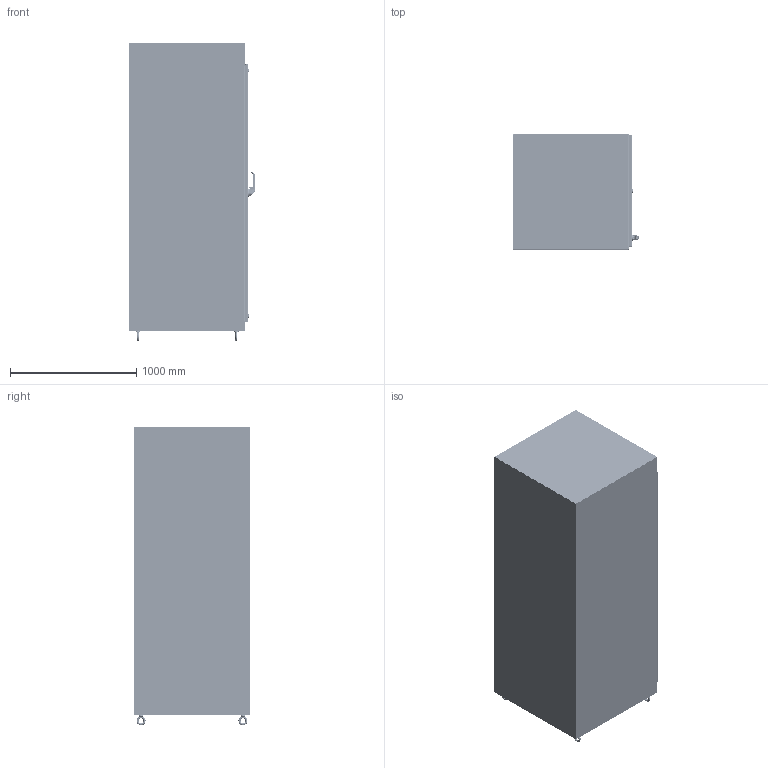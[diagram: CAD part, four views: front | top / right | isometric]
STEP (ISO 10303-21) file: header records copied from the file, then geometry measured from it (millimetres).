
FILE_DESCRIPTION((''),'2;1');
FILE_NAME('MODEL-237_ASM','2021-06-10T13:07:05',('mikek'),('SAGINAW CONTROL & ENGINEERING'),'CREO PARAMETRIC BY PTC INC, 2017260','CREO PARAMETRIC BY PTC INC, 2017260','');
FILE_SCHEMA(('AUTOMOTIVE_DESIGN { 1 0 10303 214 1 1 1 1 }'));
Length unit declared in the file: inch
Products named in the file (59): MODEL-237-BDY; MODEL-237-TP; MODEL-237-BTM; MODEL-237-R-SD; MODEL-237-L-SD; MODEL-237-DR; 100837; 111267; 100882; 100954_HANDLE; 100954_HANDLE_INSERT; 100954_SHAFT_CAM; 100954_ADAPTER_CAM; 100954_NUT_CAM; 100954_BASE; 100954_NUT_MOUNTING_LARGE; 100954_NUT_MOUNTING_SMALL; 100954_SCREW_SMALL; 100954_INSERT; 100954_PADLOCK_CATCH; 100954_ASM; 102237; 100030; 102237_ASM; MODEL-237-ROD-UPR; 128146; 128145; 128144; 102482; MODEL-237-ROD-UPR_ASM; 128143; 112504; MODEL-237-ROD-LWR; MODEL-237-ROD-LWR_ASM; MODEL-237-PR-GSKT; 113885_SHAFT; 113885_INSERT; 113885_CAM_30MM; 113885_NUT; 113885_SCREW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
Assembly tree (110 placements, depth 4):
  MODEL-237_ASM
    MODEL-237-BDY
    MODEL-237-TP
    MODEL-237-BTM
    MODEL-237-R-SD
    MODEL-237-L-SD
    MODEL-237-DOOR-ASSY_ASM
      MODEL-237-DR
      100837  x5
      111267
      100882  x12
      100954_ASM
        100954_HANDLE
        100954_HANDLE_INSERT
        100954_SHAFT_CAM
        100954_ADAPTER_CAM
        100954_NUT_CAM
        100954_BASE
        100954_NUT_MOUNTING_LARGE
        100954_NUT_MOUNTING_SMALL
        100954_SCREW_SMALL
        100954_INSERT
        100954_PADLOCK_CATCH
      102237_ASM
        102237
        100030  x2
      MODEL-237-ROD-UPR_ASM
        MODEL-237-ROD-UPR
        128146
        128145
        128144
        102482  x2
      128143  x2
      112504  x2
      MODEL-237-ROD-LWR_ASM
        MODEL-237-ROD-LWR
        128146
        128145
        128144
        102482  x2
      MODEL-237-PR-GSKT
      113885_ASM  x2
        113885_SHAFT
        113885_INSERT
        113885_CAM_30MM
        113885_NUT
        113885_SCREW
      128258_ASM  x4
        128258
        126397
      126395  x4
      102483  x4
      101383_ASM  x4
        101383
        101383-STUD
      101221  x4
    100837
    102255  x2
    MODEL-237-B42  x6
    103296_ASM  x4
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Bounding box: 991.57 x 914.4 x 2365.04 mm (x, y, z)
Volume: 31140691.9 mm3; surface area: 23242321.5 mm2
Topology: 120 solids, 120 shells, 11322 faces, 29762 edges, 18702 vertices
Faces by surface type: plane 4246, cylinder 3128, bspline 2425, cone 656, torus 651, sphere 216
Entity records: 254470 total; most frequent: CARTESIAN_POINT 84002, ORIENTED_EDGE 25250, DIRECTION 23200, PRESENTATION_STYLE_ASSIGNMENT 13126, STYLED_ITEM 12746, EDGE_CURVE 12625, CURVE_STYLE 12451, AXIS2_PLACEMENT_3D 8576
